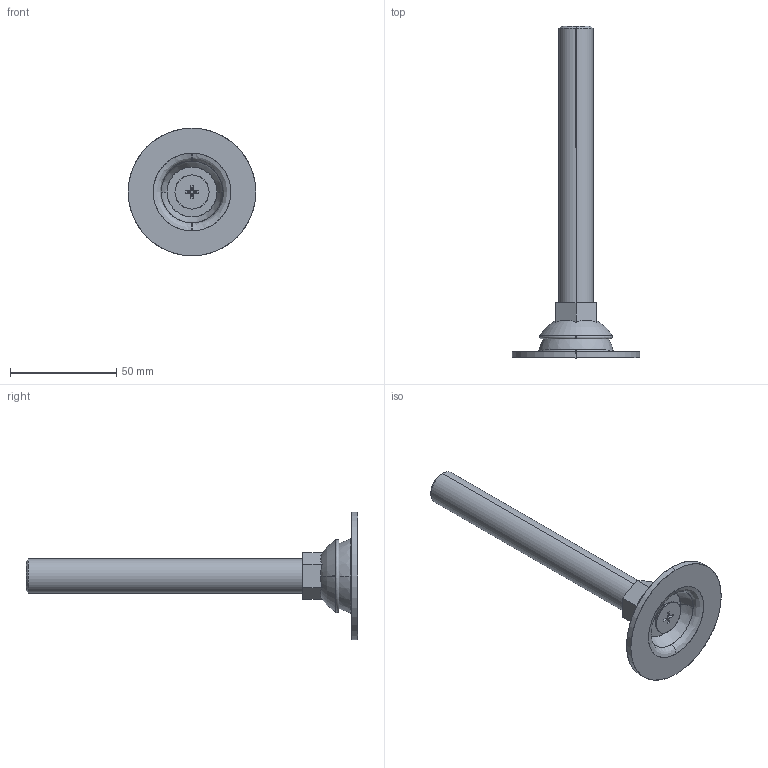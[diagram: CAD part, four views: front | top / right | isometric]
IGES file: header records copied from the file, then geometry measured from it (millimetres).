
Start section: SolidWorks IGES file using analytic representation for surfaces
Bounding box: 60 x 156 x 60 mm (x, y, z)
Surface area: 15321.8 mm2 (no closed solid volume)
Topology: 0 solids, 0 shells, 54 faces, 866 edges, 866 vertices
Faces by surface type: bspline 32, revolution 22
